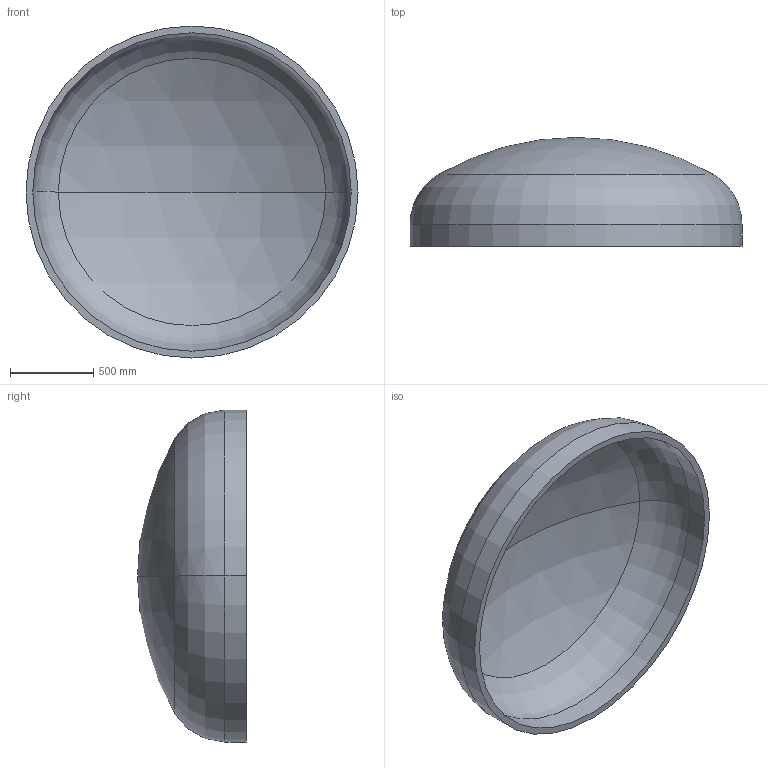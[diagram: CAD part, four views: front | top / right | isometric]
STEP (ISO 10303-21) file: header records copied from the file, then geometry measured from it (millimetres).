
FILE_DESCRIPTION (( 'STEP AP203' ), '1' );
FILE_NAME ('DIN 28013 Korbbogenform_-_Boden DIN 28013 - 2000 x 130 - I - s=41.step', '2016-07-01T13:51:52', ( '' ), ( '' ), 'SwSTEP 2.0', 'SolidWorks 2013', '' );
FILE_SCHEMA (( 'CONFIG_CONTROL_DESIGN' ));
Length unit declared in the file: millimetre
Products named in the file (1): DIN 28013 Korbbogenform_-_Boden DIN 28013 - 2000 x 130 - I - s=41
Bounding box: 2000 x 656.15 x 2000 mm (x, y, z)
Volume: 206671854.7 mm3; surface area: 10337401 mm2
Topology: 1 solids, 1 shells, 13 faces, 24 edges, 14 vertices
Faces by surface type: torus 4, cylinder 4, sphere 4, plane 1
Entity records: 407 total; most frequent: DIRECTION 72, CARTESIAN_POINT 52, ORIENTED_EDGE 48, AXIS2_PLACEMENT_3D 34, EDGE_CURVE 24, CIRCLE 20, EDGE_LOOP 14, VERTEX_POINT 14
